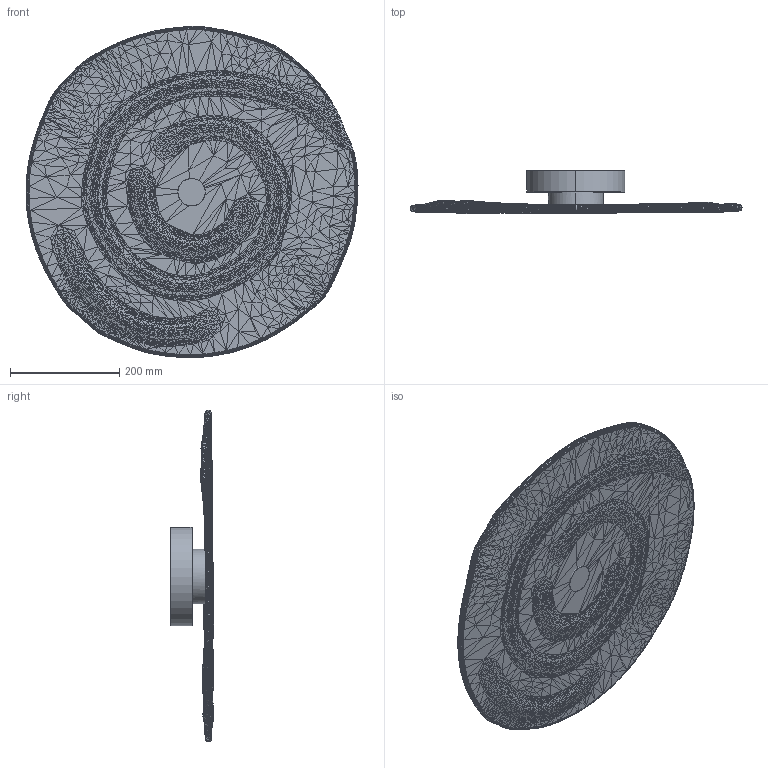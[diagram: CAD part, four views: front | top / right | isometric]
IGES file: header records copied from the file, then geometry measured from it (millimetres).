
Start section: SolidWorks IGES file using analytic representation for surfaces
Global section: file name: C:\Users\adrian\Desktop\Nueva Colección Enero 2026\3D\drive-download-20251230T145340Z-1-001\LIDA\Aplique Disco Cristal 60.IGS; native system: SolidWorks 2023; preprocessor: SolidWorks 2023; author: adrian; date: 251230.164611; units: millimetre
Bounding box: 607.64 x 79.81 x 606.25 mm (x, y, z)
Surface area: 703000.1 mm2 (no closed solid volume)
Topology: 0 solids, 0 shells, 21578 faces, 65224 edges, 65224 vertices
Faces by surface type: bspline 21570, revolution 8
